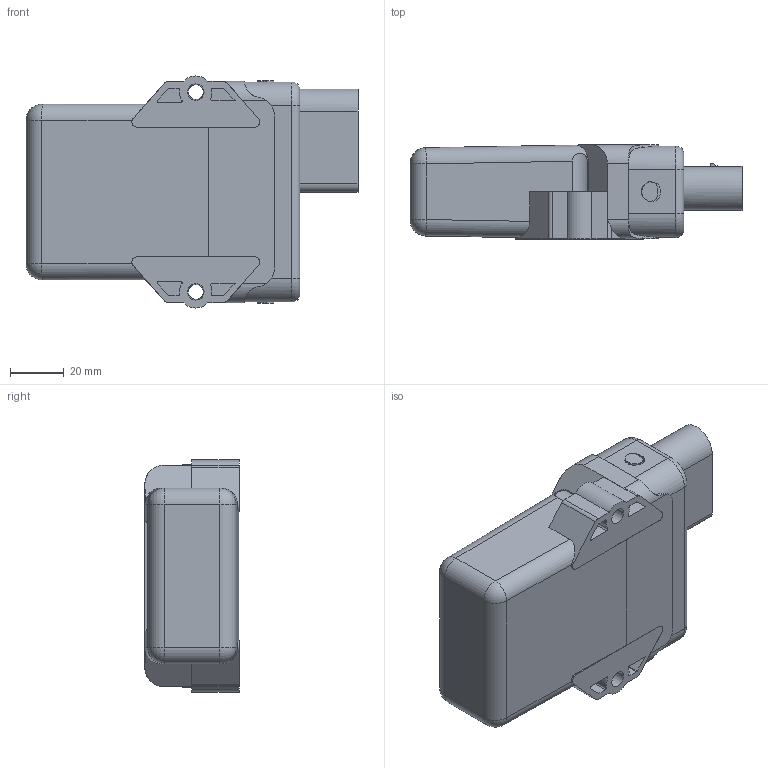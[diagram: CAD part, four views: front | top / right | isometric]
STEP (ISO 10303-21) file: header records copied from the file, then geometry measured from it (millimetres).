
FILE_DESCRIPTION(/* description */ ('STEP AP203'),/* implementation_level */ '2;1');
FILE_NAME(/* name */ 'CR3146',/* time_stamp */ '2023-11-24T09:15:21+01:00',/* author */ ('License CC BY-ND 4.0'),/* organization */ ('CADENAS'),/* preprocessor_version */ 'ST-DEVELOPER v19.3',/* originating_system */ 'PARTsolutions',/* authorisation */ ' ');
FILE_SCHEMA (('CONFIG_CONTROL_DESIGN'));
Length unit declared in the file: millimetre
Products named in the file (1): CR3146
Bounding box: 123 x 34.9 x 86 mm (x, y, z)
Volume: 241693.7 mm3; surface area: 32117.1 mm2
Topology: 1 solids, 1 shells, 313 faces, 832 edges, 544 vertices
Faces by surface type: plane 192, cylinder 109, sphere 4, cone 4, torus 4
Entity records: 11954 total; most frequent: CARTESIAN_POINT 1802, ORIENTED_EDGE 1652, DIRECTION 1650, EDGE_CURVE 826, LINE 584, VECTOR 584, VERTEX_POINT 544, AXIS2_PLACEMENT_3D 533
